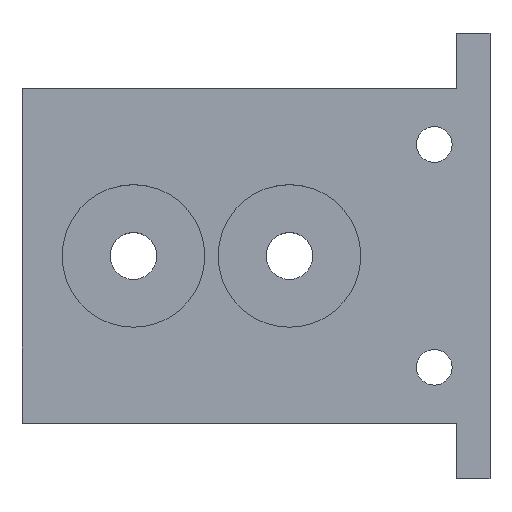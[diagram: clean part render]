
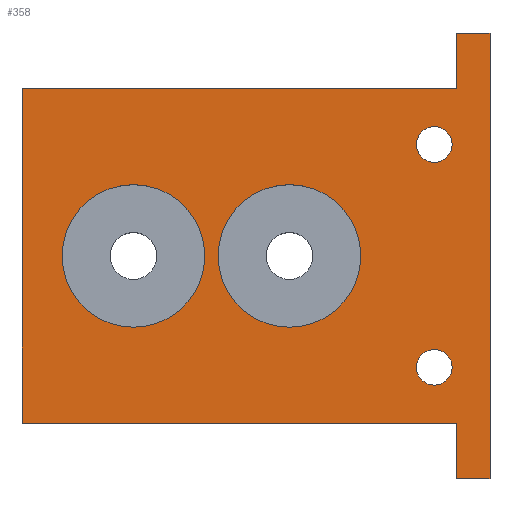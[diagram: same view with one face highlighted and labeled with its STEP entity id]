
A CAD part, top view. The second image highlights one B-rep face of the part: STEP entity #358.
In plain terms, the highlighted planar face has unit normal (0, 0, 1).
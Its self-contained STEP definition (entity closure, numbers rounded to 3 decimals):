
#234=AXIS2_PLACEMENT_3D('Plane Axis2P3D',#231,#232,#233) ;
#288=AXIS2_PLACEMENT_3D('Circle Axis2P3D',#286,#287,$) ;
#297=AXIS2_PLACEMENT_3D('Circle Axis2P3D',#295,#296,$) ;
#306=AXIS2_PLACEMENT_3D('Circle Axis2P3D',#304,#305,$) ;
#315=AXIS2_PLACEMENT_3D('Circle Axis2P3D',#313,#314,$) ;
#324=AXIS2_PLACEMENT_3D('Circle Axis2P3D',#322,#323,$) ;
#333=AXIS2_PLACEMENT_3D('Circle Axis2P3D',#331,#332,$) ;
#342=AXIS2_PLACEMENT_3D('Circle Axis2P3D',#340,#341,$) ;
#351=AXIS2_PLACEMENT_3D('Circle Axis2P3D',#349,#350,$) ;
#43=CARTESIAN_POINT('Vertex',(0.788,-18.794,8.)) ;
#57=CARTESIAN_POINT('Vertex',(0.788,-23.794,8.)) ;
#60=CARTESIAN_POINT('Line Origine',(0.788,-21.294,8.)) ;
#216=CARTESIAN_POINT('Vertex',(3.788,-23.794,8.)) ;
#219=CARTESIAN_POINT('Line Origine',(2.288,-23.794,8.)) ;
#231=CARTESIAN_POINT('Axis2P3D Location',(0.,0.,8.)) ;
#236=CARTESIAN_POINT('Line Origine',(-18.712,-18.794,8.)) ;
#240=CARTESIAN_POINT('Vertex',(-38.212,-18.794,8.)) ;
#243=CARTESIAN_POINT('Line Origine',(3.788,-3.794,8.)) ;
#247=CARTESIAN_POINT('Vertex',(3.788,16.206,8.)) ;
#250=CARTESIAN_POINT('Line Origine',(2.288,16.206,8.)) ;
#254=CARTESIAN_POINT('Vertex',(0.788,16.206,8.)) ;
#257=CARTESIAN_POINT('Line Origine',(0.788,13.706,8.)) ;
#261=CARTESIAN_POINT('Vertex',(0.788,11.206,8.)) ;
#264=CARTESIAN_POINT('Line Origine',(-18.712,11.206,8.)) ;
#268=CARTESIAN_POINT('Vertex',(-38.212,11.206,8.)) ;
#271=CARTESIAN_POINT('Line Origine',(-38.212,-3.794,8.)) ;
#286=CARTESIAN_POINT('Axis2P3D Location',(-28.212,-3.794,8.)) ;
#290=CARTESIAN_POINT('Vertex',(-21.812,-3.794,8.)) ;
#292=CARTESIAN_POINT('Vertex',(-34.612,-3.794,8.)) ;
#295=CARTESIAN_POINT('Axis2P3D Location',(-28.212,-3.794,8.)) ;
#304=CARTESIAN_POINT('Axis2P3D Location',(-14.212,-3.794,8.)) ;
#308=CARTESIAN_POINT('Vertex',(-7.812,-3.794,8.)) ;
#310=CARTESIAN_POINT('Vertex',(-20.612,-3.794,8.)) ;
#313=CARTESIAN_POINT('Axis2P3D Location',(-14.212,-3.794,8.)) ;
#322=CARTESIAN_POINT('Axis2P3D Location',(-1.212,-13.794,8.)) ;
#326=CARTESIAN_POINT('Vertex',(-2.812,-13.794,8.)) ;
#328=CARTESIAN_POINT('Vertex',(0.388,-13.794,8.)) ;
#331=CARTESIAN_POINT('Axis2P3D Location',(-1.212,-13.794,8.)) ;
#340=CARTESIAN_POINT('Axis2P3D Location',(-1.212,6.206,8.)) ;
#344=CARTESIAN_POINT('Vertex',(-2.812,6.206,8.)) ;
#346=CARTESIAN_POINT('Vertex',(0.388,6.206,8.)) ;
#349=CARTESIAN_POINT('Axis2P3D Location',(-1.212,6.206,8.)) ;
#61=DIRECTION('Vector Direction',(0.,1.,0.)) ;
#220=DIRECTION('Vector Direction',(-1.,0.,0.)) ;
#232=DIRECTION('Axis2P3D Direction',(0.,0.,1.)) ;
#233=DIRECTION('Axis2P3D XDirection',(1.,0.,0.)) ;
#237=DIRECTION('Vector Direction',(1.,0.,0.)) ;
#244=DIRECTION('Vector Direction',(0.,1.,0.)) ;
#251=DIRECTION('Vector Direction',(1.,0.,0.)) ;
#258=DIRECTION('Vector Direction',(0.,-1.,0.)) ;
#265=DIRECTION('Vector Direction',(1.,0.,0.)) ;
#272=DIRECTION('Vector Direction',(0.,-1.,0.)) ;
#287=DIRECTION('Axis2P3D Direction',(0.,0.,1.)) ;
#296=DIRECTION('Axis2P3D Direction',(0.,0.,1.)) ;
#305=DIRECTION('Axis2P3D Direction',(0.,0.,1.)) ;
#314=DIRECTION('Axis2P3D Direction',(0.,0.,1.)) ;
#323=DIRECTION('Axis2P3D Direction',(0.,0.,1.)) ;
#332=DIRECTION('Axis2P3D Direction',(0.,0.,1.)) ;
#341=DIRECTION('Axis2P3D Direction',(0.,0.,1.)) ;
#350=DIRECTION('Axis2P3D Direction',(0.,0.,1.)) ;
#62=VECTOR('Line Direction',#61,1.) ;
#221=VECTOR('Line Direction',#220,1.) ;
#238=VECTOR('Line Direction',#237,1.) ;
#245=VECTOR('Line Direction',#244,1.) ;
#252=VECTOR('Line Direction',#251,1.) ;
#259=VECTOR('Line Direction',#258,1.) ;
#266=VECTOR('Line Direction',#265,1.) ;
#273=VECTOR('Line Direction',#272,1.) ;
#277=ORIENTED_EDGE('',*,*,#242,.T.) ;
#278=ORIENTED_EDGE('',*,*,#64,.F.) ;
#279=ORIENTED_EDGE('',*,*,#223,.T.) ;
#280=ORIENTED_EDGE('',*,*,#249,.T.) ;
#281=ORIENTED_EDGE('',*,*,#256,.T.) ;
#282=ORIENTED_EDGE('',*,*,#263,.T.) ;
#283=ORIENTED_EDGE('',*,*,#270,.F.) ;
#284=ORIENTED_EDGE('',*,*,#275,.T.) ;
#301=ORIENTED_EDGE('',*,*,#294,.F.) ;
#302=ORIENTED_EDGE('',*,*,#299,.F.) ;
#319=ORIENTED_EDGE('',*,*,#312,.F.) ;
#320=ORIENTED_EDGE('',*,*,#317,.F.) ;
#337=ORIENTED_EDGE('',*,*,#330,.F.) ;
#338=ORIENTED_EDGE('',*,*,#335,.F.) ;
#355=ORIENTED_EDGE('',*,*,#348,.F.) ;
#356=ORIENTED_EDGE('',*,*,#353,.F.) ;
#303=FACE_BOUND('',#300,.T.) ;
#321=FACE_BOUND('',#318,.T.) ;
#339=FACE_BOUND('',#336,.T.) ;
#357=FACE_BOUND('',#354,.T.) ;
#358=ADVANCED_FACE('\X2\96F64EF651E04F554F53\X0\',(#285,#303,#321,#339,#357),#235,.T.) ;
#289=CIRCLE('generated circle',#288,6.4) ;
#298=CIRCLE('generated circle',#297,6.4) ;
#307=CIRCLE('generated circle',#306,6.4) ;
#316=CIRCLE('generated circle',#315,6.4) ;
#325=CIRCLE('generated circle',#324,1.6) ;
#334=CIRCLE('generated circle',#333,1.6) ;
#343=CIRCLE('generated circle',#342,1.6) ;
#352=CIRCLE('generated circle',#351,1.6) ;
#64=EDGE_CURVE('',#58,#44,#63,.T.) ;
#223=EDGE_CURVE('',#58,#217,#222,.F.) ;
#242=EDGE_CURVE('',#241,#44,#239,.T.) ;
#249=EDGE_CURVE('',#217,#248,#246,.T.) ;
#256=EDGE_CURVE('',#248,#255,#253,.F.) ;
#263=EDGE_CURVE('',#255,#262,#260,.T.) ;
#270=EDGE_CURVE('',#269,#262,#267,.T.) ;
#275=EDGE_CURVE('',#269,#241,#274,.T.) ;
#294=EDGE_CURVE('',#291,#293,#289,.T.) ;
#299=EDGE_CURVE('',#293,#291,#298,.T.) ;
#312=EDGE_CURVE('',#309,#311,#307,.T.) ;
#317=EDGE_CURVE('',#311,#309,#316,.T.) ;
#330=EDGE_CURVE('',#327,#329,#325,.T.) ;
#335=EDGE_CURVE('',#329,#327,#334,.T.) ;
#348=EDGE_CURVE('',#345,#347,#343,.T.) ;
#353=EDGE_CURVE('',#347,#345,#352,.T.) ;
#276=EDGE_LOOP('',(#277,#278,#279,#280,#281,#282,#283,#284)) ;
#300=EDGE_LOOP('',(#301,#302)) ;
#318=EDGE_LOOP('',(#319,#320)) ;
#336=EDGE_LOOP('',(#337,#338)) ;
#354=EDGE_LOOP('',(#355,#356)) ;
#285=FACE_OUTER_BOUND('',#276,.T.) ;
#63=LINE('Line',#60,#62) ;
#222=LINE('Line',#219,#221) ;
#239=LINE('Line',#236,#238) ;
#246=LINE('Line',#243,#245) ;
#253=LINE('Line',#250,#252) ;
#260=LINE('Line',#257,#259) ;
#267=LINE('Line',#264,#266) ;
#274=LINE('Line',#271,#273) ;
#235=PLANE('',#234) ;
#44=VERTEX_POINT('',#43) ;
#58=VERTEX_POINT('',#57) ;
#217=VERTEX_POINT('',#216) ;
#241=VERTEX_POINT('',#240) ;
#248=VERTEX_POINT('',#247) ;
#255=VERTEX_POINT('',#254) ;
#262=VERTEX_POINT('',#261) ;
#269=VERTEX_POINT('',#268) ;
#291=VERTEX_POINT('',#290) ;
#293=VERTEX_POINT('',#292) ;
#309=VERTEX_POINT('',#308) ;
#311=VERTEX_POINT('',#310) ;
#327=VERTEX_POINT('',#326) ;
#329=VERTEX_POINT('',#328) ;
#345=VERTEX_POINT('',#344) ;
#347=VERTEX_POINT('',#346) ;
